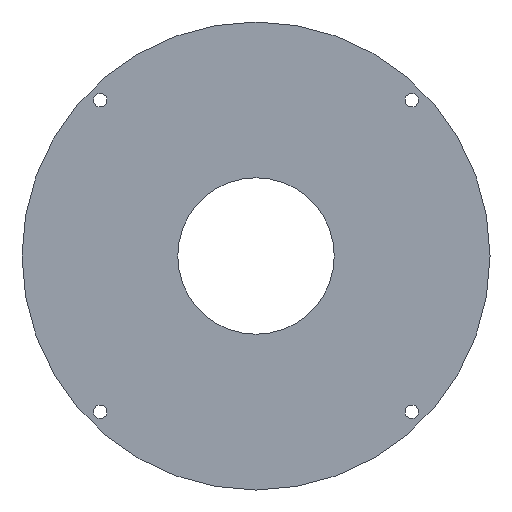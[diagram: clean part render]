
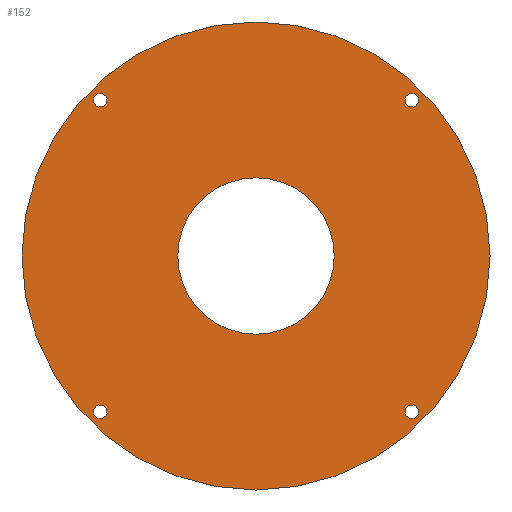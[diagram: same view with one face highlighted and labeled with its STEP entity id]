
A CAD part, front view. The second image highlights one B-rep face of the part: STEP entity #152.
In plain terms, the highlighted planar face has unit normal (0, -1, 0).
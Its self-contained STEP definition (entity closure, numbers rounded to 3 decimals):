
#20=FACE_BOUND('',#44,.T.);
#21=FACE_BOUND('',#45,.T.);
#22=FACE_BOUND('',#46,.T.);
#23=FACE_BOUND('',#47,.T.);
#24=FACE_BOUND('',#48,.T.);
#26=PLANE('',#182);
#30=FACE_OUTER_BOUND('',#43,.T.);
#43=EDGE_LOOP('',(#121));
#44=EDGE_LOOP('',(#122));
#45=EDGE_LOOP('',(#123));
#46=EDGE_LOOP('',(#124));
#47=EDGE_LOOP('',(#125));
#48=EDGE_LOOP('',(#126));
#65=CIRCLE('',#172,19.9);
#68=CIRCLE('',#176,59.5);
#73=CIRCLE('',#183,1.7);
#74=CIRCLE('',#184,1.7);
#75=CIRCLE('',#185,1.7);
#76=CIRCLE('',#186,1.7);
#77=VERTEX_POINT('',#241);
#80=VERTEX_POINT('',#249);
#85=VERTEX_POINT('',#262);
#86=VERTEX_POINT('',#264);
#87=VERTEX_POINT('',#266);
#88=VERTEX_POINT('',#268);
#89=EDGE_CURVE('',#77,#77,#65,.T.);
#94=EDGE_CURVE('',#80,#80,#68,.T.);
#99=EDGE_CURVE('',#85,#85,#73,.T.);
#100=EDGE_CURVE('',#86,#86,#74,.T.);
#101=EDGE_CURVE('',#87,#87,#75,.T.);
#102=EDGE_CURVE('',#88,#88,#76,.T.);
#121=ORIENTED_EDGE('',*,*,#94,.T.);
#122=ORIENTED_EDGE('',*,*,#89,.T.);
#123=ORIENTED_EDGE('',*,*,#99,.T.);
#124=ORIENTED_EDGE('',*,*,#100,.T.);
#125=ORIENTED_EDGE('',*,*,#101,.T.);
#126=ORIENTED_EDGE('',*,*,#102,.T.);
#152=ADVANCED_FACE('',(#30,#20,#21,#22,#23,#24),#26,.F.);
#172=AXIS2_PLACEMENT_3D('',#242,#195,#196);
#176=AXIS2_PLACEMENT_3D('',#251,#205,#206);
#182=AXIS2_PLACEMENT_3D('',#261,#217,#218);
#183=AXIS2_PLACEMENT_3D('',#263,#219,#220);
#184=AXIS2_PLACEMENT_3D('',#265,#221,#222);
#185=AXIS2_PLACEMENT_3D('',#267,#223,#224);
#186=AXIS2_PLACEMENT_3D('',#269,#225,#226);
#195=DIRECTION('center_axis',(0.,1.,0.));
#196=DIRECTION('ref_axis',(1.,0.,0.));
#205=DIRECTION('center_axis',(0.,-1.,0.));
#206=DIRECTION('ref_axis',(1.,0.,0.));
#217=DIRECTION('center_axis',(0.,1.,0.));
#218=DIRECTION('ref_axis',(0.,0.,
1.));
#219=DIRECTION('center_axis',(0.,1.,0.));
#220=DIRECTION('ref_axis',(0.,0.,
1.));
#221=DIRECTION('center_axis',(0.,1.,0.));
#222=DIRECTION('ref_axis',(0.,0.,
1.));
#223=DIRECTION('center_axis',(0.,1.,0.));
#224=DIRECTION('ref_axis',(0.,0.,
1.));
#225=DIRECTION('center_axis',(0.,1.,0.));
#226=DIRECTION('ref_axis',(0.,0.,
1.));
#241=CARTESIAN_POINT('',(-19.9,-101.5,453.));
#242=CARTESIAN_POINT('Origin',(0.,-101.5,453.));
#249=CARTESIAN_POINT('',(-59.5,-101.5,453.));
#251=CARTESIAN_POINT('Origin',(0.,-101.5,453.));
#261=CARTESIAN_POINT('Origin',(0.,-101.5,453.));
#262=CARTESIAN_POINT('',(-39.6,-101.5,411.7));
#263=CARTESIAN_POINT('Origin',(-39.6,-101.5,413.4));
#264=CARTESIAN_POINT('',(-39.6,-101.5,490.9));
#265=CARTESIAN_POINT('Origin',(-39.6,-101.5,492.6));
#266=CARTESIAN_POINT('',(39.6,-101.5,411.7));
#267=CARTESIAN_POINT('Origin',(39.6,-101.5,413.4));
#268=CARTESIAN_POINT('',(39.6,-101.5,490.9));
#269=CARTESIAN_POINT('Origin',(39.6,-101.5,492.6));
